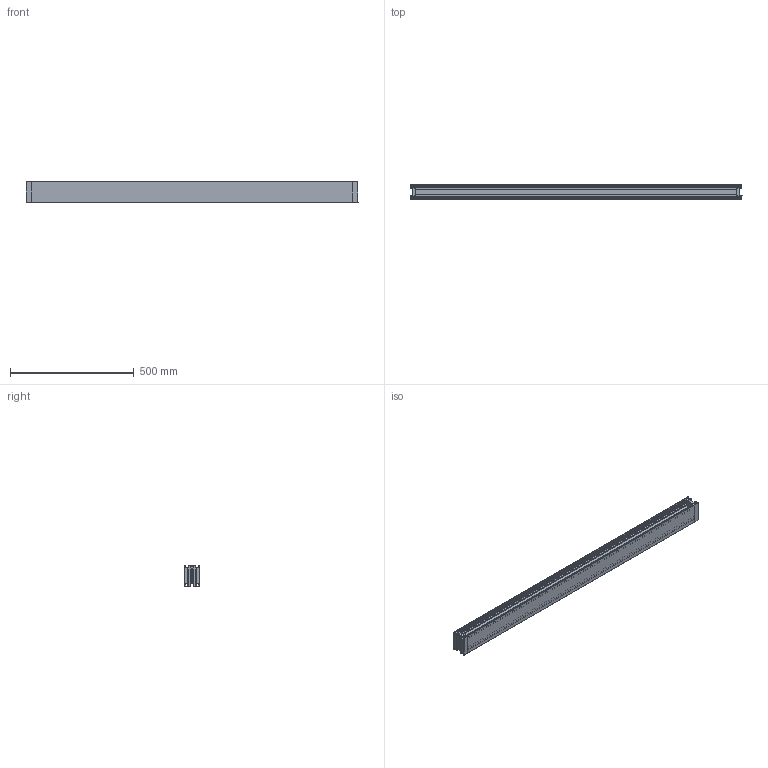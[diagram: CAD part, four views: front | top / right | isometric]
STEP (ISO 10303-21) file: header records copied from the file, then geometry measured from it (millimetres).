
FILE_DESCRIPTION (( 'STEP AP214' ), '1' );
FILE_NAME ('1001942.STEP', '2025-09-15T15:00:22', ( '' ), ( '' ), 'SwSTEP 2.0', 'SolidWorks 2025', '' );
FILE_SCHEMA (( 'AUTOMOTIVE_DESIGN' ));
Length unit declared in the file: millimetre
Products named in the file (1): 1001942
Bounding box: 1340 x 60 x 86 mm (x, y, z)
Volume: 2676689.6 mm3; surface area: 884837.9 mm2
Topology: 3 solids, 3 shells, 337 faces, 981 edges, 650 vertices
Faces by surface type: plane 187, cylinder 142, bspline 8
Entity records: 11630 total; most frequent: CARTESIAN_POINT 2589, ORIENTED_EDGE 1962, DIRECTION 1837, EDGE_CURVE 981, VECTOR 669, LINE 669, VERTEX_POINT 650, AXIS2_PLACEMENT_3D 584
